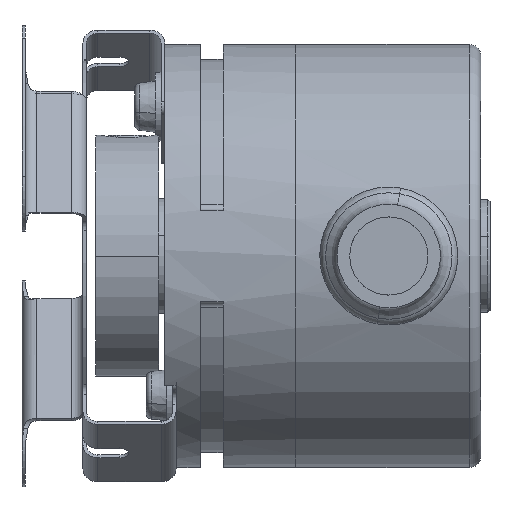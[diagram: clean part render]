
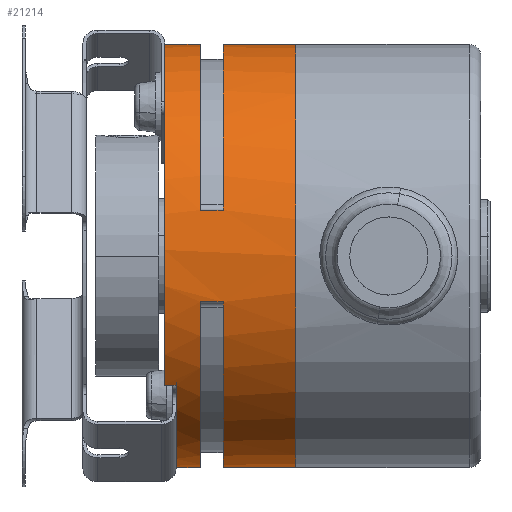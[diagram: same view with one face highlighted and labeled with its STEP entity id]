
A CAD part, front view. The second image highlights one B-rep face of the part: STEP entity #21214.
In plain terms, the highlighted cylindrical face has radius 18.4 mm (diameter 36.8 mm), a partial arc.
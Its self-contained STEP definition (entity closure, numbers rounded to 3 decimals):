
#1249 = DIRECTION ( 'NONE',  ( -1., 0., 0. ) ) ;
#1250 = VECTOR ( 'NONE', #1249, 1000. ) ;
#1251 = CARTESIAN_POINT ( 'NONE',  ( 86.26, -35.458, 4. ) ) ;
#1252 = LINE ( 'NONE', #1251, #1250 ) ;
#1254 = CARTESIAN_POINT ( 'NONE',  ( 86.26, -35.458, 4. ) ) ;
#1255 = DIRECTION ( 'NONE',  ( 0., 0., -1. ) ) ;
#1256 = DIRECTION ( 'NONE',  ( 1., 0., 0. ) ) ;
#1257 = CARTESIAN_POINT ( 'NONE',  ( 86.26, -17.498, 0. ) ) ;
#1258 = AXIS2_PLACEMENT_3D ( 'NONE', #1257, #1256, #1255 ) ;
#1259 = CIRCLE ( 'NONE', #1258, 18.4 ) ;
#1260 = DIRECTION ( 'NONE',  ( 0., 0., -1. ) ) ;
#1261 = DIRECTION ( 'NONE',  ( 1., 0., 0. ) ) ;
#1262 = CARTESIAN_POINT ( 'NONE',  ( 86.26, -17.498, 0. ) ) ;
#1263 = AXIS2_PLACEMENT_3D ( 'NONE', #1262, #1261, #1260 ) ;
#1264 = CIRCLE ( 'NONE', #1263, 18.4 ) ;
#1265 = CARTESIAN_POINT ( 'NONE',  ( 86.26, -35.458, -4. ) ) ;
#1266 = DIRECTION ( 'NONE',  ( -1., 0., 0. ) ) ;
#1267 = VECTOR ( 'NONE', #1266, 1000. ) ;
#1268 = CARTESIAN_POINT ( 'NONE',  ( 86.26, -35.458, -4. ) ) ;
#1269 = LINE ( 'NONE', #1268, #1267 ) ;
#1292 = DIRECTION ( 'NONE',  ( 0., 0., 1. ) ) ;
#1293 = DIRECTION ( 'NONE',  ( -1., 0., 0. ) ) ;
#1294 = AXIS2_PLACEMENT_3D ( 'NONE', #1298, #1293, #1292 ) ;
#1295 = CYLINDRICAL_SURFACE ( 'NONE', #1294, 18.4 ) ;
#1298 = CARTESIAN_POINT ( 'NONE',  ( 76.76, -17.498, 0. ) ) ;
#1313 = FACE_OUTER_BOUND ( 'NONE', #21200, .T. ) ;
#1314 = DIRECTION ( 'NONE',  ( 0., 0., 1. ) ) ;
#1315 = DIRECTION ( 'NONE',  ( -1., 0., 0. ) ) ;
#1316 = CARTESIAN_POINT ( 'NONE',  ( 82.16, -17.498, 0. ) ) ;
#1317 = AXIS2_PLACEMENT_3D ( 'NONE', #1316, #1315, #1314 ) ;
#1318 = CIRCLE ( 'NONE', #1317, 18.4 ) ;
#1321 = CARTESIAN_POINT ( 'NONE',  ( 84.26, -35.458, 4. ) ) ;
#1322 = DIRECTION ( 'NONE',  ( 0., 0., 1. ) ) ;
#1323 = DIRECTION ( 'NONE',  ( -1., 0., 0. ) ) ;
#1324 = AXIS2_PLACEMENT_3D ( 'NONE', #1330, #1323, #1322 ) ;
#1325 = CIRCLE ( 'NONE', #1324, 18.4 ) ;
#1330 = CARTESIAN_POINT ( 'NONE',  ( 92.56, -17.498, 0. ) ) ;
#1338 = CARTESIAN_POINT ( 'NONE',  ( 84.26, -17.498, 0. ) ) ;
#1339 = AXIS2_PLACEMENT_3D ( 'NONE', #1338, #1398, #1397 ) ;
#1340 = CIRCLE ( 'NONE', #1339, 18.4 ) ;
#1341 = DIRECTION ( 'NONE',  ( 0., 0., -1. ) ) ;
#1342 = DIRECTION ( 'NONE',  ( 1., 0., 0. ) ) ;
#1344 = CARTESIAN_POINT ( 'NONE',  ( 84.26, -17.498, 0. ) ) ;
#1345 = AXIS2_PLACEMENT_3D ( 'NONE', #1344, #1342, #1341 ) ;
#1346 = CIRCLE ( 'NONE', #1345, 18.4 ) ;
#1347 = DIRECTION ( 'NONE',  ( 0., 0., 1. ) ) ;
#1348 = DIRECTION ( 'NONE',  ( -1., 0., 0. ) ) ;
#1349 = CARTESIAN_POINT ( 'NONE',  ( 81.16, -17.498, 0. ) ) ;
#1350 = AXIS2_PLACEMENT_3D ( 'NONE', #1349, #1348, #1347 ) ;
#1351 = CIRCLE ( 'NONE', #1350, 18.4 ) ;
#1352 = CARTESIAN_POINT ( 'NONE',  ( 81.16, -32.069, -11.237 ) ) ;
#1353 = DIRECTION ( 'NONE',  ( 0., 0., 1. ) ) ;
#1354 = DIRECTION ( 'NONE',  ( -1., 0., 0. ) ) ;
#1355 = CARTESIAN_POINT ( 'NONE',  ( 81.16, -17.498, 0. ) ) ;
#1356 = AXIS2_PLACEMENT_3D ( 'NONE', #1355, #1354, #1353 ) ;
#1357 = CIRCLE ( 'NONE', #1356, 18.4 ) ;
#1359 = CARTESIAN_POINT ( 'NONE',  ( 82.16, -32.069, -11.237 ) ) ;
#1360 = DIRECTION ( 'NONE',  ( -1., 0., 0. ) ) ;
#1361 = VECTOR ( 'NONE', #1360, 1000. ) ;
#1362 = CARTESIAN_POINT ( 'NONE',  ( 82.16, -32.069, -11.237 ) ) ;
#1363 = LINE ( 'NONE', #1362, #1361 ) ;
#1364 = CARTESIAN_POINT ( 'NONE',  ( 81.16, -19.944, -18.237 ) ) ;
#1365 = DIRECTION ( 'NONE',  ( -1., 0., 0. ) ) ;
#1366 = VECTOR ( 'NONE', #1365, 1000. ) ;
#1367 = CARTESIAN_POINT ( 'NONE',  ( 82.16, -19.944, -18.237 ) ) ;
#1368 = LINE ( 'NONE', #1367, #1366 ) ;
#1369 = CARTESIAN_POINT ( 'NONE',  ( 82.16, -19.944, -18.237 ) ) ;
#1397 = DIRECTION ( 'NONE',  ( 0., 0., -1. ) ) ;
#1398 = DIRECTION ( 'NONE',  ( 1., 0., 0. ) ) ;
#1432 = CARTESIAN_POINT ( 'NONE',  ( 84.26, -35.458, -4. ) ) ;
#4875 = LINE ( 'NONE', #4933, #4932 ) ;
#4905 = CARTESIAN_POINT ( 'NONE',  ( 92.56, -17.498, -18.4 ) ) ;
#4906 = CARTESIAN_POINT ( 'NONE',  ( 92.56, -17.498, 18.4 ) ) ;
#4930 = CARTESIAN_POINT ( 'NONE',  ( 86.26, -17.498, -18.4 ) ) ;
#4931 = DIRECTION ( 'NONE',  ( -1., 0., 0. ) ) ;
#4932 = VECTOR ( 'NONE', #4931, 1000. ) ;
#4933 = CARTESIAN_POINT ( 'NONE',  ( 76.76, -17.498, -18.4 ) ) ;
#5091 = DIRECTION ( 'NONE',  ( -1., 0., 0. ) ) ;
#5092 = VECTOR ( 'NONE', #5091, 1000. ) ;
#5093 = CARTESIAN_POINT ( 'NONE',  ( 76.76, -17.498, 18.4 ) ) ;
#5094 = LINE ( 'NONE', #5093, #5092 ) ;
#5095 = DIRECTION ( 'NONE',  ( -1., 0., 0. ) ) ;
#5096 = VECTOR ( 'NONE', #5095, 1000. ) ;
#5097 = CARTESIAN_POINT ( 'NONE',  ( 76.76, -17.498, -18.4 ) ) ;
#5098 = LINE ( 'NONE', #5097, #5096 ) ;
#5099 = DIRECTION ( 'NONE',  ( -1., 0., 0. ) ) ;
#5100 = VECTOR ( 'NONE', #5099, 1000. ) ;
#5101 = CARTESIAN_POINT ( 'NONE',  ( 76.76, -17.498, 18.4 ) ) ;
#5102 = LINE ( 'NONE', #5101, #5100 ) ;
#5103 = CARTESIAN_POINT ( 'NONE',  ( 86.26, -17.498, 18.4 ) ) ;
#5104 = CARTESIAN_POINT ( 'NONE',  ( 81.16, -17.498, 18.4 ) ) ;
#5209 = CARTESIAN_POINT ( 'NONE',  ( 84.26, -17.498, -18.4 ) ) ;
#5255 = CARTESIAN_POINT ( 'NONE',  ( 81.16, -17.498, -18.4 ) ) ;
#5257 = CARTESIAN_POINT ( 'NONE',  ( 84.26, -17.498, 18.4 ) ) ;
#21191 = ORIENTED_EDGE ( 'NONE', *, *, #21192, .F. ) ;
#21192 = EDGE_CURVE ( 'NONE', #21193, #21324, #1269, .T. ) ;
#21193 = VERTEX_POINT ( 'NONE', #1265 ) ;
#21195 = ORIENTED_EDGE ( 'NONE', *, *, #21197, .T. ) ;
#21197 = EDGE_CURVE ( 'NONE', #21193, #24740, #1264, .T. ) ;
#21200 = EDGE_LOOP ( 'NONE', ( #21253, #21249, #21220, #21221, #21208, #21250, #21237, #21238, #21229, #21236, #21230, #21242, #21245, #21246, #21191, #21195 ) ) ;
#21204 = EDGE_CURVE ( 'NONE', #24827, #21207, #1259, .T. ) ;
#21207 = VERTEX_POINT ( 'NONE', #1254 ) ;
#21208 = ORIENTED_EDGE ( 'NONE', *, *, #21211, .T. ) ;
#21211 = EDGE_CURVE ( 'NONE', #21207, #21225, #1252, .T. ) ;
#21214 = ADVANCED_FACE ( 'NONE', ( #1313 ), #1295, .T. ) ;
#21220 = ORIENTED_EDGE ( 'NONE', *, *, #24832, .T. ) ;
#21221 = ORIENTED_EDGE ( 'NONE', *, *, #21204, .T. ) ;
#21222 = EDGE_CURVE ( 'NONE', #24765, #24763, #1325, .T. ) ;
#21225 = VERTEX_POINT ( 'NONE', #1321 ) ;
#21226 = EDGE_CURVE ( 'NONE', #21228, #21234, #1318, .T. ) ;
#21228 = VERTEX_POINT ( 'NONE', #1369 ) ;
#21229 = ORIENTED_EDGE ( 'NONE', *, *, #21233, .F. ) ;
#21230 = ORIENTED_EDGE ( 'NONE', *, *, #21231, .T. ) ;
#21231 = EDGE_CURVE ( 'NONE', #21228, #21232, #1368, .T. ) ;
#21232 = VERTEX_POINT ( 'NONE', #1364 ) ;
#21233 = EDGE_CURVE ( 'NONE', #21234, #21241, #1363, .T. ) ;
#21234 = VERTEX_POINT ( 'NONE', #1359 ) ;
#21236 = ORIENTED_EDGE ( 'NONE', *, *, #21226, .F. ) ;
#21237 = ORIENTED_EDGE ( 'NONE', *, *, #24838, .T. ) ;
#21238 = ORIENTED_EDGE ( 'NONE', *, *, #21240, .F. ) ;
#21240 = EDGE_CURVE ( 'NONE', #21241, #24825, #1357, .T. ) ;
#21241 = VERTEX_POINT ( 'NONE', #1352 ) ;
#21242 = ORIENTED_EDGE ( 'NONE', *, *, #21244, .F. ) ;
#21244 = EDGE_CURVE ( 'NONE', #24925, #21232, #1351, .T. ) ;
#21245 = ORIENTED_EDGE ( 'NONE', *, *, #24836, .F. ) ;
#21246 = ORIENTED_EDGE ( 'NONE', *, *, #21247, .F. ) ;
#21247 = EDGE_CURVE ( 'NONE', #21324, #24915, #1346, .T. ) ;
#21249 = ORIENTED_EDGE ( 'NONE', *, *, #21222, .T. ) ;
#21250 = ORIENTED_EDGE ( 'NONE', *, *, #21251, .F. ) ;
#21251 = EDGE_CURVE ( 'NONE', #24921, #21225, #1340, .T. ) ;
#21253 = ORIENTED_EDGE ( 'NONE', *, *, #24737, .F. ) ;
#21324 = VERTEX_POINT ( 'NONE', #1432 ) ;
#24737 = EDGE_CURVE ( 'NONE', #24765, #24740, #4875, .T. ) ;
#24740 = VERTEX_POINT ( 'NONE', #4930 ) ;
#24763 = VERTEX_POINT ( 'NONE', #4906 ) ;
#24765 = VERTEX_POINT ( 'NONE', #4905 ) ;
#24825 = VERTEX_POINT ( 'NONE', #5104 ) ;
#24827 = VERTEX_POINT ( 'NONE', #5103 ) ;
#24832 = EDGE_CURVE ( 'NONE', #24763, #24827, #5102, .T. ) ;
#24836 = EDGE_CURVE ( 'NONE', #24915, #24925, #5098, .T. ) ;
#24838 = EDGE_CURVE ( 'NONE', #24921, #24825, #5094, .T. ) ;
#24915 = VERTEX_POINT ( 'NONE', #5209 ) ;
#24921 = VERTEX_POINT ( 'NONE', #5257 ) ;
#24925 = VERTEX_POINT ( 'NONE', #5255 ) ;
